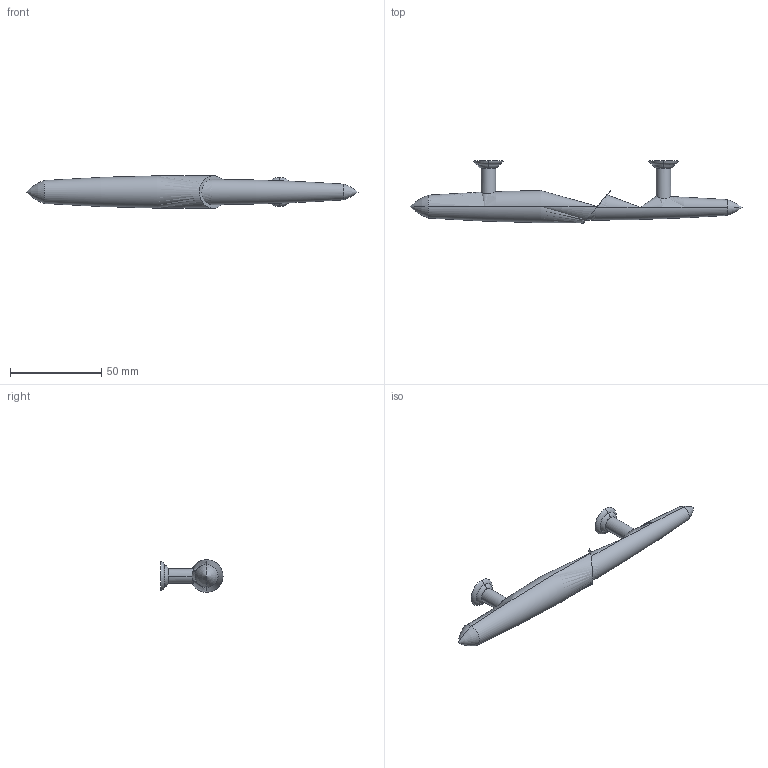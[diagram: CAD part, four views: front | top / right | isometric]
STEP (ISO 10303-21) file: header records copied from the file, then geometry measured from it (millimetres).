
FILE_DESCRIPTION( ( '' ), '1' );
FILE_NAME( 'C:/Documents and Settings/Sachin/Desktop/Sheet 10_1/stp/ 9070773.stp', '2013-10-22T11:46:29', ( '' ), ( '' ), ' ', ' ', ' ' );
FILE_SCHEMA( ( 'CONFIG_CONTROL_DESIGN' ) );
Length unit declared in the file: millimetre
Products named in the file (1): 1
Bounding box: 182 x 33.99 x 17.89 mm (x, y, z)
Volume: 30878.6 mm3; surface area: 9831 mm2
Topology: 1 solids, 1 shells, 29 faces, 72 edges, 46 vertices
Faces by surface type: torus 16, cylinder 8, plane 5
Entity records: 1246 total; most frequent: CARTESIAN_POINT 498, DIRECTION 168, ORIENTED_EDGE 136, AXIS2_PLACEMENT_3D 80, EDGE_CURVE 68, CIRCLE 50, VERTEX_POINT 46, EDGE_LOOP 34
